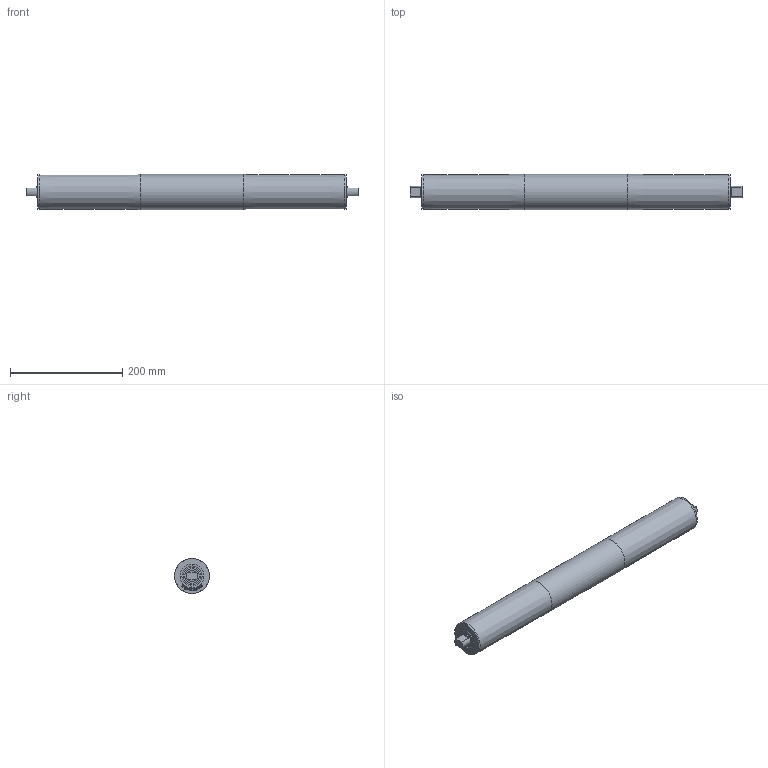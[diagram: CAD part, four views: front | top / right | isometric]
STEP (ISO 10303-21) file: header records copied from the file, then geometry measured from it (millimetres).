
FILE_DESCRIPTION(/* description */ (''),/* implementation_level */ '2;1');
FILE_NAME(/* name */ 'C:\WF_Ellegaard\Designs\00 standart komponenter\Tromlemotor\Scandrive S\Ø60\Scandrive S Ø60 RL550.stp',/* time_stamp */ '2017-04-19T17:55:44+02:00',/* author */ ('guh'),/* organization */ (''),/* preprocessor_version */ 'ST-DEVELOPER v15.6',/* originating_system */ 'Autodesk Inventor 2015',/* authorisation */ '');
FILE_SCHEMA (('AUTOMOTIVE_DESIGN { 1 0 10303 214 3 1 1 }'));
Length unit declared in the file: millimetre
Products named in the file (1): Scandrive S Ø60 RL550
Bounding box: 591 x 62.5 x 62.5 mm (x, y, z)
Volume: 385212 mm3; surface area: 215805.3 mm2
Topology: 1 solids, 2 shells, 454 faces, 1186 edges, 790 vertices
Faces by surface type: plane 236, bspline 196, cylinder 16, cone 4, torus 2
Full cylindrical faces by diameter (mm): 20 x2, 26 x2, 26.02 x2, 41.98 x2, 42 x2, 57 x1, 61.496 x2, 61.5 x2, 62.5 x1
Entity records: 14806 total; most frequent: CARTESIAN_POINT 4953, ORIENTED_EDGE 2324, DIRECTION 1336, EDGE_CURVE 1162, VERTEX_POINT 788, LINE 722, VECTOR 722, EDGE_LOOP 530
